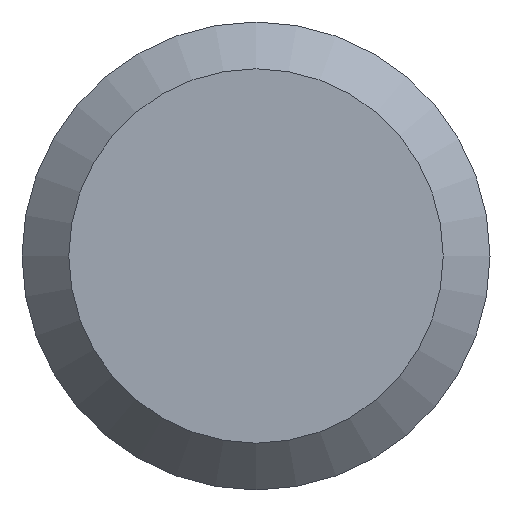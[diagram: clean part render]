
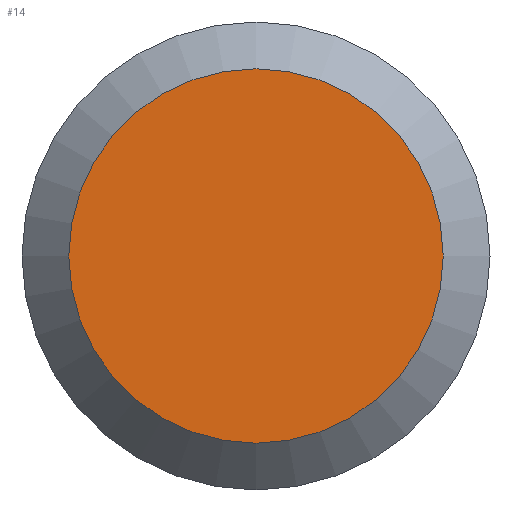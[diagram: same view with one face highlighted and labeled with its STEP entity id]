
A CAD part, left-side view. The second image highlights one B-rep face of the part: STEP entity #14.
In plain terms, the highlighted planar face has unit normal (-1, 0, 0).
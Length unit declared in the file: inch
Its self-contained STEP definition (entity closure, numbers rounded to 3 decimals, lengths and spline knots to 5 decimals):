
#1 = DIRECTION ( 'NONE',  ( 1., 0., 0. ) ) ;
#5 = CARTESIAN_POINT ( 'NONE',  ( 0., 0.02975, 0. ) ) ;
#14 = ADVANCED_FACE ( 'NONE', ( #140 ), #126, .F. ) ;
#33 = ORIENTED_EDGE ( 'NONE', *, *, #195, .T. ) ;
#88 = CARTESIAN_POINT ( 'NONE',  ( 0., 0., 0. ) ) ;
#89 = CIRCLE ( 'NONE', #118, 0.0238 ) ;
#102 = VERTEX_POINT ( 'NONE', #198 ) ;
#115 = AXIS2_PLACEMENT_3D ( 'NONE', #5, #1, #152 ) ;
#118 = AXIS2_PLACEMENT_3D ( 'NONE', #88, #194, #164 ) ;
#126 = PLANE ( 'NONE',  #115 ) ;
#140 = FACE_OUTER_BOUND ( 'NONE', #243, .T. ) ;
#152 = DIRECTION ( 'NONE',  ( 0., 0., -1. ) ) ;
#164 = DIRECTION ( 'NONE',  ( 0., 0., -1. ) ) ;
#194 = DIRECTION ( 'NONE',  ( -1., 0., 0. ) ) ;
#195 = EDGE_CURVE ( 'NONE', #102, #102, #89, .T. ) ;
#198 = CARTESIAN_POINT ( 'NONE',  ( 0., 0., -0.0238 ) ) ;
#243 = EDGE_LOOP ( 'NONE', ( #33 ) ) ;
